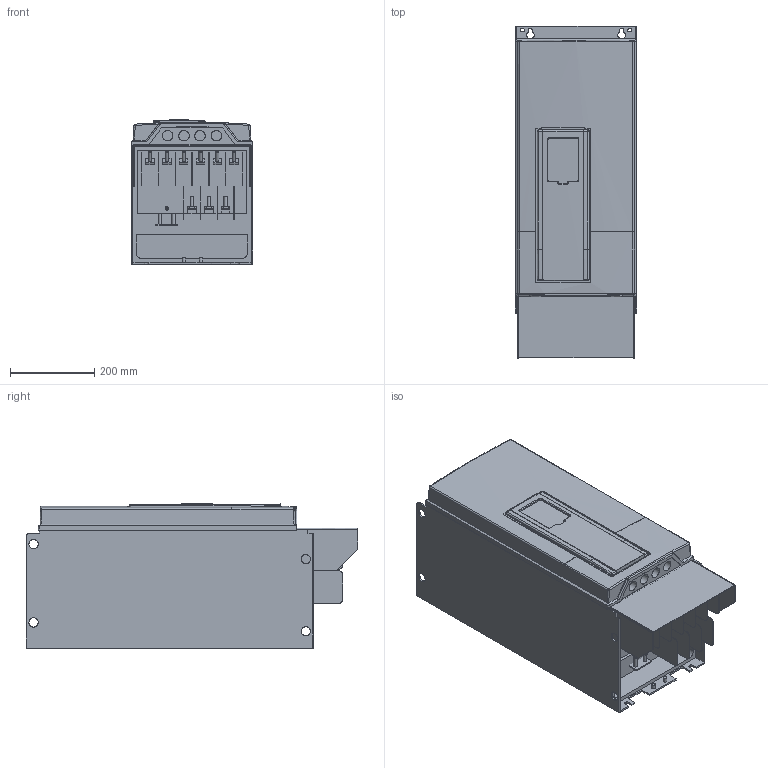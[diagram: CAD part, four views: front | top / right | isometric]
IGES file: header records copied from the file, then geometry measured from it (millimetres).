
Global section: file name: C:\temp\3D mechanics (extra.vacon)\Agileen\MR8\MR8_Simplified_Model_IP00.igs; native system: NX V6.0; preprocessor: SIEMENS UGS NX 6.0; date: 20121213.101833; units: millimetre
Bounding box: 290.08 x 790.04 x 343.04 mm (x, y, z)
Surface area: 1506084.8 mm2 (no closed solid volume)
Topology: 0 solids, 0 shells, 591 faces, 4048 edges, 3970 vertices
Faces by surface type: bspline 591
